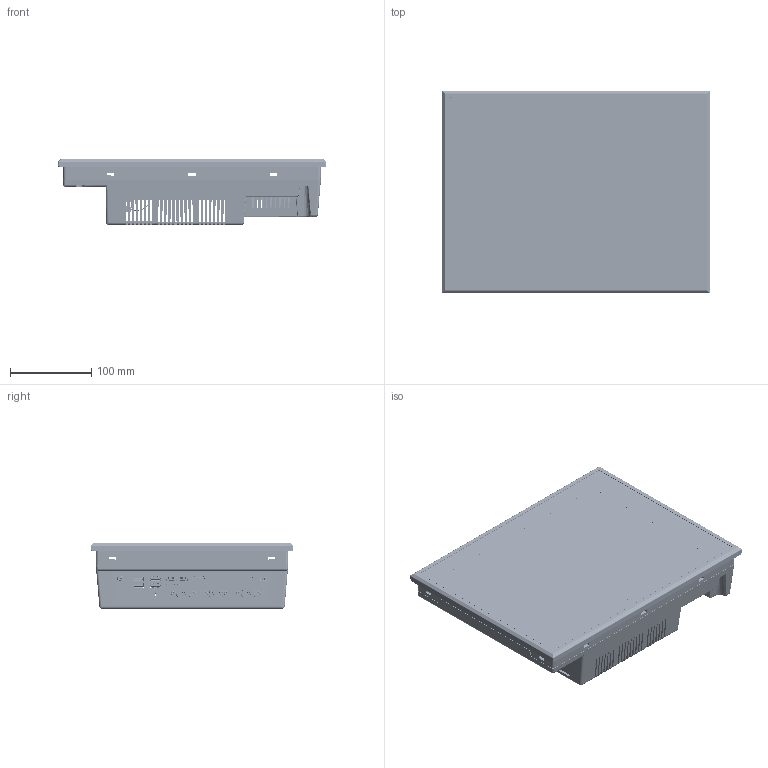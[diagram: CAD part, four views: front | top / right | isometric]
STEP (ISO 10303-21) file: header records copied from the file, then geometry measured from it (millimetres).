
FILE_DESCRIPTION (( 'STEP AP214' ), '1' );
FILE_NAME ('CM-iNP512 Assy.STEP', '2025-02-24T01:40:17', ( '' ), ( '' ), 'SwSTEP 2.0', 'SolidWorks 2024', '' );
FILE_SCHEMA (( 'AUTOMOTIVE_DESIGN' ));
Length unit declared in the file: millimetre
Products named in the file (10): Asssy 485_BNT21056_RS422,485_v0.5; IO Bracket_BTC40022_J6412T_12_A_ASUS J6412T-IM-A; CM-iNP512 Assy; Bottom Case_BTC40087_A; Connector_Dsub 9P_연장선; Main board_BTC40026_J6412T-IM-A; PSU_BXP03019_CM-PC441NF, 100~240V, 12V, 6A; Frame Rubber_BTC09019_A; Main Plate_BTC30469_A_0.188; Front Bezel_BTC40084_A
Assembly tree (11 placements, depth 2):
  CM-iNP512 Assy
    Front Bezel_BTC40084_A
    IO Bracket_BTC40022_J6412T_12_A_ASUS J6412T-IM-A
    Bottom Case_BTC40087_A
    Connector_Dsub 9P_연장선  x3
    Asssy 485_BNT21056_RS422,485_v0.5
    PSU_BXP03019_CM-PC441NF, 100~240V, 12V, 6A
    Main board_BTC40026_J6412T-IM-A
    Main Plate_BTC30469_A_0.188
    Frame Rubber_BTC09019_A
Bounding box: 329 x 249 x 80.8 mm (x, y, z)
Volume: 551613.5 mm3; surface area: 691943.9 mm2
Topology: 24 solids, 110 shells, 16091 faces, 44482 edges, 28649 vertices
Faces by surface type: plane 10353, cylinder 4223, cone 669, bspline 490, sphere 218, torus 138
Entity records: 672038 total; most frequent: CARTESIAN_POINT 137846, ORIENTED_EDGE 86890, DIRECTION 72314, EDGE_CURVE 43549, VERTEX_POINT 28091, LINE 26614, VECTOR 26614, AXIS2_PLACEMENT_3D 22850
